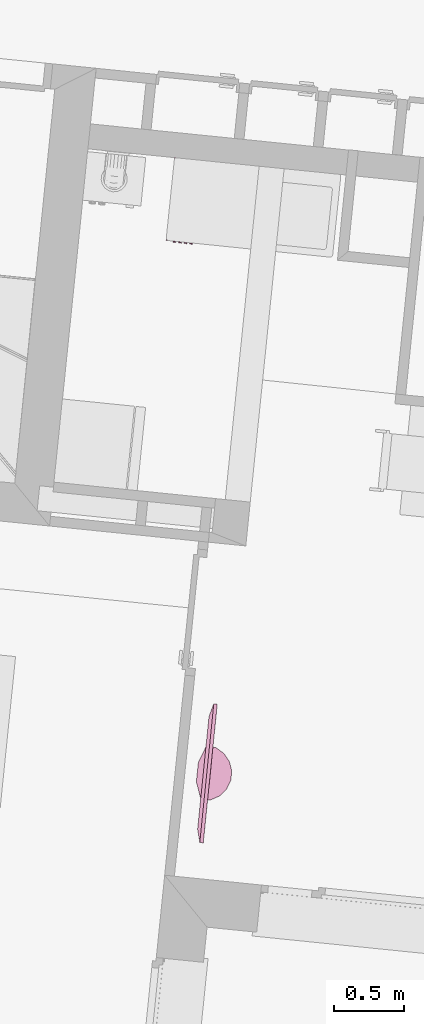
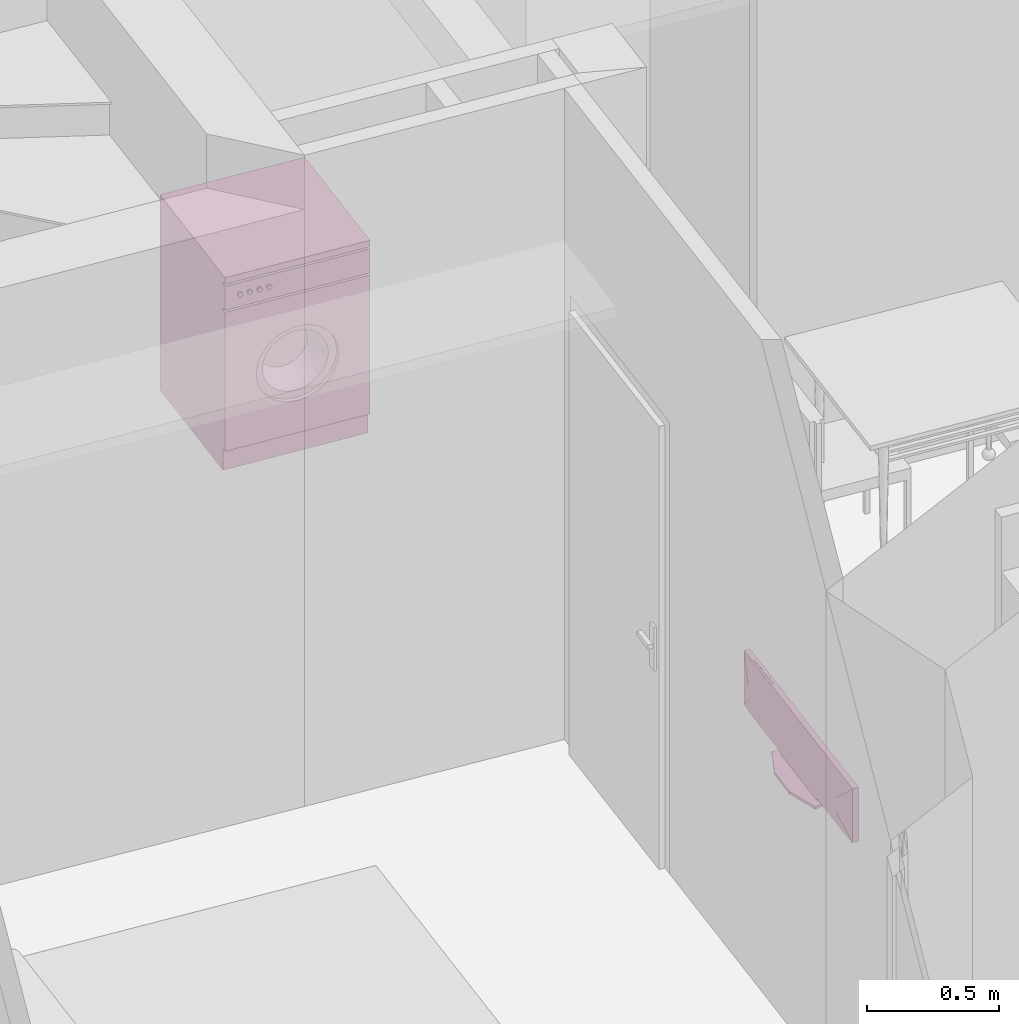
# One storey, part 129 of 164: 2 furnishings.
"""IFC2X3 building model written with IfcOpenShell, lengths in millimetres."""

from ifc_helpers import new_model, entity, si_unit, converted_unit, derived_unit, money_unit, direction, frame, origin_with_axes, place, context, subcontext, project, spatial, open_shell, faceted_brep, surface_model, source, transform, mapped, type_object, element, save


model = new_model("IFC2X3")

# Units and contexts
model_context = context("Model", 3, precision=0.01, world=origin_with_axes(), true_north=direction((0.0, 1.0)))
body_context = subcontext(model_context, "Body", "Model", "MODEL_VIEW")
ifc_project = project(units=[si_unit("LENGTHUNIT", "METRE", prefix="MILLI"), si_unit("AREAUNIT", "SQUARE_METRE"), si_unit("VOLUMEUNIT", "CUBIC_METRE"), converted_unit("PLANEANGLEUNIT", "DEGREE", entity("IfcPlaneAngleMeasure", 0.0174532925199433), si_unit("PLANEANGLEUNIT", "RADIAN"), dimensions=[0, 0, 0, 0, 0, 0, 0]), money_unit("USD"), converted_unit("TIMEUNIT", "Year", entity("IfcTimeMeasure", 31557600.0), si_unit("TIMEUNIT", "SECOND"), dimensions=[0, 0, 1, 0, 0, 0, 0]), si_unit("MASSUNIT", "GRAM", prefix="KILO"), si_unit("THERMODYNAMICTEMPERATUREUNIT", "DEGREE_CELSIUS"), si_unit("LUMINOUSINTENSITYUNIT", "LUMEN"), si_unit("ENERGYUNIT", "JOULE", prefix="MEGA"), derived_unit("THERMALCONDUCTANCEUNIT", [(si_unit("POWERUNIT", "WATT"), 1), (si_unit("LENGTHUNIT", "METRE"), -1), (si_unit("THERMODYNAMICTEMPERATUREUNIT", "KELVIN"), -1)]), derived_unit("SPECIFICHEATCAPACITYUNIT", [(si_unit("ENERGYUNIT", "JOULE"), 1), (si_unit("MASSUNIT", "GRAM", prefix="KILO"), -1), (si_unit("THERMODYNAMICTEMPERATUREUNIT", "KELVIN"), -1)]), derived_unit("MASSDENSITYUNIT", [(si_unit("MASSUNIT", "GRAM", prefix="KILO"), 1), (si_unit("VOLUMEUNIT", "CUBIC_METRE"), -1)])], contexts=[model_context])

# Site, building, storey
site_placement = place(None, origin_with_axes())
site = spatial("IfcSite", under=ifc_project, at=site_placement, Name="Site", CompositionType="ELEMENT")
building_placement = place(site_placement, origin_with_axes())
building = spatial("IfcBuilding", under=site, at=building_placement, Name="Bâtiment", CompositionType="ELEMENT")
storey_placement = place(building_placement, frame((0.0, 0.0, 5750.0), z_axis=(0.0, 0.0, 1.0), x_axis=(1.0, 0.0, 0.0)))
storey = spatial("IfcBuildingStorey", under=building, at=storey_placement, Name="Etage1", CompositionType="ELEMENT", Elevation=5750.0)

# Furnishings
furnishing_element_type_1 = type_object("IfcFurnishingElementType", Name="Machine à laver")
shared_shape_1 = source(origin_with_axes(), body_context, "Body", "SurfaceModel", [
    faceted_brep([(0.0, 20.0, 100.0), (600.0, 20.0, 100.0), (600.0, 0.0, 100.0), (0.0, 0.0, 100.0), (0.0, 20.00000000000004, 740.0), (600.0, 20.00000000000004, 740.0), (471.4285714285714, 20.00000000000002, 420.0000000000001), (465.5872845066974, 20.00000000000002, 464.3689791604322), (448.4614977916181, 20.00000000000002, 505.7142857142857), (421.2183053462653, 20.00000000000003, 541.2183053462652), (385.7142857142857, 20.00000000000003, 568.4614977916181), (344.3689791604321, 20.00000000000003, 585.5872845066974), (300.0000000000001, 20.00000000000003, 591.4285714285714), (255.6310208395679, 20.00000000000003, 585.5872845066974), (214.2857142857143, 20.00000000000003, 568.4614977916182), (178.7816946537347, 20.00000000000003, 541.2183053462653), (151.5385022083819, 20.00000000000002, 505.7142857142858), (134.4127154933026, 20.00000000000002, 464.3689791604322), (128.5714285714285, 20.00000000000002, 420.0000000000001), (134.4127154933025, 20.00000000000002, 375.6310208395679), (151.5385022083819, 20.00000000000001, 334.2857142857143), (178.7816946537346, 20.00000000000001, 298.7816946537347), (214.2857142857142, 20.00000000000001, 271.5385022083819), (255.6310208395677, 20.00000000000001, 254.4127154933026), (299.9999999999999, 20.00000000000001, 248.5714285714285), (344.368979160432, 20.00000000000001, 254.4127154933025), (385.7142857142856, 20.00000000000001, 271.5385022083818), (421.2183053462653, 20.00000000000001, 298.7816946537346), (448.4614977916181, 20.00000000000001, 334.2857142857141), (465.5872845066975, 20.00000000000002, 375.6310208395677), (600.0, 0.0, 740.0), (0.0, 0.0, 740.0), (471.4285714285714, 0.0, 420.0000000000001), (465.5872845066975, 0.0, 375.6310208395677), (448.4614977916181, 0.0, 334.2857142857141), (421.2183053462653, 0.0, 298.7816946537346), (385.7142857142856, 0.0, 271.5385022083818), (344.368979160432, 0.0, 254.4127154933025), (299.9999999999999, 0.0, 248.5714285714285), (255.6310208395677, 0.0, 254.4127154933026), (214.2857142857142, 0.0, 271.5385022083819), (178.7816946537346, 0.0, 298.7816946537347), (151.5385022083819, 0.0, 334.2857142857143), (134.4127154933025, 0.0, 375.6310208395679), (128.5714285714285, 0.0, 420.0000000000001), (134.4127154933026, 0.0, 464.3689791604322), (151.5385022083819, 0.0, 505.7142857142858), (178.7816946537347, 0.0, 541.2183053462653), (214.2857142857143, 0.0, 568.4614977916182), (255.6310208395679, 0.0, 585.5872845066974), (300.0000000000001, 0.0, 591.4285714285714), (344.3689791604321, 0.0, 585.5872845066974), (385.7142857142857, 0.0, 568.4614977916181), (421.2183053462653, 0.0, 541.2183053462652), (448.4614977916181, 0.0, 505.7142857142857), (465.5872845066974, 0.0, 464.3689791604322)], [[[0, 1, 2, 3]], [[0, 4, 5, 1], [6, 7, 8, 9, 10, 11, 12, 13, 14, 15, 16, 17, 18, 19, 20, 21, 22, 23, 24, 25, 26, 27, 28, 29]], [[1, 5, 30, 2]], [[3, 2, 30, 31], [32, 33, 34, 35, 36, 37, 38, 39, 40, 41, 42, 43, 44, 45, 46, 47, 48, 49, 50, 51, 52, 53, 54, 55]], [[4, 0, 3, 31]], [[5, 4, 31, 30]], [[7, 6, 32, 55]], [[8, 7, 55, 54]], [[9, 8, 54, 53]], [[10, 9, 53, 52]], [[11, 10, 52, 51]], [[12, 11, 51, 50]], [[13, 12, 50, 49]], [[14, 13, 49, 48]], [[15, 14, 48, 47]], [[16, 15, 47, 46]], [[17, 16, 46, 45]], [[18, 17, 45, 44]], [[19, 18, 44, 43]], [[20, 19, 43, 42]], [[21, 20, 42, 41]], [[22, 21, 41, 40]], [[23, 22, 40, 39]], [[24, 23, 39, 38]], [[25, 24, 38, 37]], [[26, 25, 37, 36]], [[27, 26, 36, 35]], [[28, 27, 35, 34]], [[29, 28, 34, 33]], [[6, 29, 33, 32]]]),
    faceted_brep([(471.4285714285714, 40.00000000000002, 420.0000000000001), (465.5872845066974, 40.00000000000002, 464.3689791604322), (465.5872845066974, 20.00000000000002, 464.3689791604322), (471.4285714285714, 20.00000000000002, 420.0000000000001), (465.5872845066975, 40.00000000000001, 375.6310208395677), (448.4614977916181, 40.00000000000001, 334.2857142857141), (421.2183053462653, 40.00000000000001, 298.7816946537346), (385.7142857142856, 40.00000000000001, 271.5385022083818), (344.368979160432, 40.00000000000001, 254.4127154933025), (299.9999999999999, 40.00000000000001, 248.5714285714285), (255.6310208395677, 40.00000000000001, 254.4127154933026), (214.2857142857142, 40.00000000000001, 271.5385022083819), (178.7816946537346, 40.00000000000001, 298.7816946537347), (151.5385022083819, 40.00000000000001, 334.2857142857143), (134.4127154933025, 40.00000000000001, 375.6310208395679), (128.5714285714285, 40.00000000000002, 420.0000000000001), (134.4127154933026, 40.00000000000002, 464.3689791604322), (151.5385022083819, 40.00000000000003, 505.7142857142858), (178.7816946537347, 40.00000000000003, 541.2183053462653), (214.2857142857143, 40.00000000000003, 568.4614977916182), (255.6310208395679, 40.00000000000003, 585.5872845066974), (300.0000000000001, 40.00000000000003, 591.4285714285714), (344.3689791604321, 40.00000000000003, 585.5872845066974), (385.7142857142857, 40.00000000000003, 568.4614977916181), (421.2183053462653, 40.00000000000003, 541.2183053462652), (448.4614977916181, 40.00000000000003, 505.7142857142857), (437.1428571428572, 40.00000000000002, 420.0000000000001), (432.469827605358, 40.00000000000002, 455.4951833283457), (418.7691982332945, 40.00000000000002, 488.5714285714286), (396.9746442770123, 40.00000000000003, 516.9746442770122), (368.5714285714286, 40.00000000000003, 538.7691982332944), (335.4951833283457, 40.00000000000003, 552.469827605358), (300.0000000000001, 40.00000000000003, 557.1428571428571), (264.5048166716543, 40.00000000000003, 552.469827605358), (231.4285714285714, 40.00000000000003, 538.7691982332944), (203.0253557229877, 40.00000000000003, 516.9746442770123), (181.2308017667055, 40.00000000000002, 488.5714285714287), (167.530172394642, 40.00000000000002, 455.4951833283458), (162.8571428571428, 40.00000000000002, 420.0000000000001), (167.530172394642, 40.00000000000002, 384.5048166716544), (181.2308017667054, 40.00000000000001, 351.4285714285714), (203.0253557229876, 40.00000000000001, 323.0253557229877), (231.4285714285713, 40.00000000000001, 301.2308017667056), (264.5048166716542, 40.00000000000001, 287.530172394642), (299.9999999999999, 40.00000000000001, 282.8571428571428), (335.4951833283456, 40.00000000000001, 287.530172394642), (368.5714285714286, 40.00000000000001, 301.2308017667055), (396.9746442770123, 40.00000000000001, 323.0253557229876), (418.7691982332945, 40.00000000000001, 351.4285714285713), (432.469827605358, 40.00000000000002, 384.5048166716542), (448.4614977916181, 20.00000000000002, 505.7142857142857), (421.2183053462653, 20.00000000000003, 541.2183053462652), (385.7142857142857, 20.00000000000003, 568.4614977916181), (344.3689791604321, 20.00000000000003, 585.5872845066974), (300.0000000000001, 20.00000000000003, 591.4285714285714), (255.6310208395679, 20.00000000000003, 585.5872845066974), (214.2857142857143, 20.00000000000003, 568.4614977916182), (178.7816946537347, 20.00000000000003, 541.2183053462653), (151.5385022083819, 20.00000000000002, 505.7142857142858), (134.4127154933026, 20.00000000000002, 464.3689791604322), (128.5714285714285, 20.00000000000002, 420.0000000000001), (134.4127154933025, 20.00000000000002, 375.6310208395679), (151.5385022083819, 20.00000000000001, 334.2857142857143), (178.7816946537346, 20.00000000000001, 298.7816946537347), (214.2857142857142, 20.00000000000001, 271.5385022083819), (255.6310208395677, 20.00000000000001, 254.4127154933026), (299.9999999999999, 20.00000000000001, 248.5714285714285), (344.368979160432, 20.00000000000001, 254.4127154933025), (385.7142857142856, 20.00000000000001, 271.5385022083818), (421.2183053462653, 20.00000000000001, 298.7816946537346), (448.4614977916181, 20.00000000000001, 334.2857142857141), (465.5872845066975, 20.00000000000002, 375.6310208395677), (437.1428571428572, 20.00000000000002, 420.0000000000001), (432.469827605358, 20.00000000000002, 384.5048166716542), (418.7691982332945, 20.00000000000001, 351.4285714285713), (396.9746442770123, 20.00000000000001, 323.0253557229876), (368.5714285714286, 20.00000000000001, 301.2308017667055), (335.4951833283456, 20.00000000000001, 287.530172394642), (299.9999999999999, 20.00000000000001, 282.8571428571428), (264.5048166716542, 20.00000000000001, 287.530172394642), (231.4285714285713, 20.00000000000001, 301.2308017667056), (203.0253557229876, 20.00000000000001, 323.0253557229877), (181.2308017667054, 20.00000000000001, 351.4285714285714), (167.530172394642, 20.00000000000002, 384.5048166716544), (162.8571428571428, 20.00000000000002, 420.0000000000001), (167.530172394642, 20.00000000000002, 455.4951833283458), (181.2308017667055, 20.00000000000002, 488.5714285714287), (203.0253557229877, 20.00000000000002, 516.9746442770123), (231.4285714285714, 20.00000000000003, 538.7691982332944), (264.5048166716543, 20.00000000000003, 552.469827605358), (300.0000000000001, 20.00000000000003, 557.1428571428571), (335.4951833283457, 20.00000000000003, 552.469827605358), (368.5714285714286, 20.00000000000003, 538.7691982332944), (396.9746442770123, 20.00000000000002, 516.9746442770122), (418.7691982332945, 20.00000000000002, 488.5714285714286), (432.469827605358, 20.00000000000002, 455.4951833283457)], [[[0, 1, 2, 3]], [[0, 4, 5, 6, 7, 8, 9, 10, 11, 12, 13, 14, 15, 16, 17, 18, 19, 20, 21, 22, 23, 24, 25, 1], [26, 27, 28, 29, 30, 31, 32, 33, 34, 35, 36, 37, 38, 39, 40, 41, 42, 43, 44, 45, 46, 47, 48, 49]], [[1, 25, 50, 2]], [[3, 2, 50, 51, 52, 53, 54, 55, 56, 57, 58, 59, 60, 61, 62, 63, 64, 65, 66, 67, 68, 69, 70, 71], [72, 73, 74, 75, 76, 77, 78, 79, 80, 81, 82, 83, 84, 85, 86, 87, 88, 89, 90, 91, 92, 93, 94, 95]], [[4, 0, 3, 71]], [[5, 4, 71, 70]], [[6, 5, 70, 69]], [[7, 6, 69, 68]], [[8, 7, 68, 67]], [[9, 8, 67, 66]], [[10, 9, 66, 65]], [[11, 10, 65, 64]], [[12, 11, 64, 63]], [[13, 12, 63, 62]], [[14, 13, 62, 61]], [[15, 14, 61, 60]], [[16, 15, 60, 59]], [[17, 16, 59, 58]], [[18, 17, 58, 57]], [[19, 18, 57, 56]], [[20, 19, 56, 55]], [[21, 20, 55, 54]], [[22, 21, 54, 53]], [[23, 22, 53, 52]], [[24, 23, 52, 51]], [[25, 24, 51, 50]], [[27, 26, 72, 95]], [[28, 27, 95, 94]], [[29, 28, 94, 93]], [[30, 29, 93, 92]], [[31, 30, 92, 91]], [[32, 31, 91, 90]], [[33, 32, 90, 89]], [[34, 33, 89, 88]], [[35, 34, 88, 87]], [[36, 35, 87, 86]], [[37, 36, 86, 85]], [[38, 37, 85, 84]], [[39, 38, 84, 83]], [[40, 39, 83, 82]], [[41, 40, 82, 81]], [[42, 41, 81, 80]], [[43, 42, 80, 79]], [[44, 43, 79, 78]], [[45, 44, 78, 77]], [[46, 45, 77, 76]], [[47, 46, 76, 75]], [[48, 47, 75, 74]], [[49, 48, 74, 73]], [[26, 49, 73, 72]]]),
    surface_model("IfcShellBasedSurfaceModel", [(264.5048166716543, 39.99999999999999, 552.469827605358), (300.0, 39.99999999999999, 557.1428571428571), (300.0, 140.0, 522.8571428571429), (273.3786125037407, 140.0, 519.3523707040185), (335.4951833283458, 39.99999999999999, 552.469827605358), (326.6213874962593, 140.0, 519.3523707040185), (351.4285714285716, 140.0, 509.0768986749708), (372.7309832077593, 140.0, 492.7309832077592), (389.0768986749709, 140.0, 471.4285714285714), (399.3523707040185, 140.0, 446.6213874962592), (402.8571428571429, 140.0, 420.0), (399.3523707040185, 140.0, 393.3786125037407), (389.0768986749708, 140.0, 368.5714285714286), (372.7309832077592, 140.0, 347.2690167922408), (351.4285714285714, 140.0, 330.9231013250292), (326.6213874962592, 140.0, 320.6476292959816), (299.9999999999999, 140.0, 317.1428571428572), (273.3786125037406, 140.0, 320.6476292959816), (248.5714285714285, 140.0, 330.9231013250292), (227.2690167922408, 140.0, 347.2690167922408), (210.9231013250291, 140.0, 368.5714285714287), (200.6476292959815, 140.0, 393.3786125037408), (197.1428571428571, 140.0, 420.0000000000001), (200.6476292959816, 140.0, 446.6213874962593), (210.9231013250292, 140.0, 471.4285714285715), (227.2690167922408, 140.0, 492.7309832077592), (248.5714285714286, 140.0, 509.0768986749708), (231.4285714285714, 39.99999999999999, 538.7691982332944), (368.5714285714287, 39.99999999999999, 538.7691982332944), (396.9746442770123, 39.99999999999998, 516.9746442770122), (418.7691982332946, 39.99999999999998, 488.5714285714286), (432.469827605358, 39.99999999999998, 455.4951833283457), (437.1428571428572, 39.99999999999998, 419.9999999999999), (432.469827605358, 39.99999999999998, 384.5048166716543), (418.7691982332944, 39.99999999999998, 351.4285714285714), (396.9746442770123, 39.99999999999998, 323.0253557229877), (368.5714285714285, 39.99999999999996, 301.2308017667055), (335.4951833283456, 39.99999999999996, 287.5301723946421), (299.9999999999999, 39.99999999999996, 282.8571428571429), (264.5048166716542, 39.99999999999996, 287.5301723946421), (231.4285714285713, 39.99999999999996, 301.2308017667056), (203.0253557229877, 39.99999999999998, 323.0253557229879), (181.2308017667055, 39.99999999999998, 351.4285714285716), (167.530172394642, 39.99999999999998, 384.5048166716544), (162.8571428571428, 39.99999999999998, 420.0000000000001), (167.5301723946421, 39.99999999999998, 455.4951833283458), (181.2308017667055, 39.99999999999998, 488.5714285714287), (203.0253557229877, 39.99999999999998, 516.9746442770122)], [open_shell([[[0, 1, 2, 3]], [[1, 4, 5, 2]], [[2, 5, 6, 7, 8, 9, 10, 11, 12, 13, 14, 15, 16, 17, 18, 19, 20, 21, 22, 23, 24, 25, 26, 3]], [[27, 0, 3, 26]], [[4, 28, 6, 5]], [[28, 29, 7, 6]], [[29, 30, 8, 7]], [[30, 31, 9, 8]], [[31, 32, 10, 9]], [[32, 33, 11, 10]], [[33, 34, 12, 11]], [[34, 35, 13, 12]], [[35, 36, 14, 13]], [[36, 37, 15, 14]], [[37, 38, 16, 15]], [[38, 39, 17, 16]], [[39, 40, 18, 17]], [[40, 41, 19, 18]], [[41, 42, 20, 19]], [[42, 43, 21, 20]], [[43, 44, 22, 21]], [[44, 45, 23, 22]], [[45, 46, 24, 23]], [[46, 47, 25, 24]], [[47, 27, 26, 25]]])]),
    surface_model("IfcShellBasedSurfaceModel", [(0.0, 20.0, 100.0), (0.0, 20.00000000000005, 870.0), (0.0, 600.0, 870.0), (0.0, 600.0, 99.99999999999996)], [open_shell([[[0, 1, 2, 3]]])]),
    surface_model("IfcShellBasedSurfaceModel", [(600.0, 19.99999999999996, 100.0), (600.0, 20.00000000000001, 870.0), (600.0, 599.9999999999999, 870.0), (600.0, 599.9999999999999, 99.99999999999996)], [open_shell([[[0, 1, 2, 3]]])]),
    surface_model("IfcShellBasedSurfaceModel", [(0.0, 600.0, 100.0), (0.0, 600.0, 870.0), (600.0, 600.0, 870.0), (600.0, 600.0, 100.0)], [open_shell([[[0, 1, 2, 3]]])]),
    faceted_brep([(0.0, 20.0, 0.0), (600.0, 20.0, 0.0), (600.0, 20.0, 100.0), (0.0, 20.0, 100.0), (0.0, 600.0, 0.0), (600.0, 600.0, 0.0), (600.0, 600.0, 100.0), (0.0, 600.0, 100.0)], [[[0, 1, 2, 3]], [[0, 4, 5, 1]], [[1, 5, 6, 2]], [[3, 2, 6, 7]], [[4, 0, 3, 7]], [[5, 4, 7, 6]]]),
    faceted_brep([(0.0, 20.0, 750.0), (600.0, 20.0, 750.0), (600.0, 0.0, 750.0), (0.0, 0.0, 750.0), (0.0, 20.00000000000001, 860.0), (600.0, 20.00000000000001, 860.0), (600.0, 0.0, 860.0), (0.0, 0.0, 860.0)], [[[0, 1, 2, 3]], [[0, 4, 5, 1]], [[1, 5, 6, 2]], [[3, 2, 6, 7]], [[4, 0, 3, 7]], [[5, 4, 7, 6]]]),
    surface_model("IfcShellBasedSurfaceModel", [(0.0, 20.0, 740.0), (0.0, 20.00000000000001, 870.0), (600.0, 20.00000000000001, 870.0), (600.0, 20.0, 740.0)], [open_shell([[[0, 1, 2, 3]]])]),
    faceted_brep([(0.0, 0.0, 870.0), (600.0, 0.0, 870.0), (600.0, 0.0, 900.0), (0.0, 0.0, 900.0), (0.0, 600.0, 870.0), (600.0, 600.0, 870.0), (600.0, 600.0, 900.0), (0.0, 600.0, 900.0)], [[[0, 1, 2, 3]], [[0, 4, 5, 1]], [[1, 5, 6, 2]], [[3, 2, 6, 7]], [[4, 0, 3, 7]], [[5, 4, 7, 6]]]),
    faceted_brep([(68.66025403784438, 0.0, 804.9999999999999), (64.99999999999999, 0.0, 801.3397459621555), (59.99999999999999, 0.0, 799.9999999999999), (54.99999999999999, 0.0, 801.3397459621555), (51.33974596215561, 0.0, 804.9999999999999), (49.99999999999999, 0.0, 809.9999999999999), (51.33974596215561, 0.0, 815.0), (55.0, 0.0, 818.6602540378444), (60.0, 0.0, 820.0), (65.0, 0.0, 818.6602540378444), (68.66025403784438, 0.0, 815.0), (69.99999999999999, 0.0, 809.9999999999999), (68.66025403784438, -10.0, 804.9999999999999), (64.99999999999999, -10.0, 801.3397459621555), (59.99999999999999, -10.0, 799.9999999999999), (54.99999999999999, -10.0, 801.3397459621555), (51.33974596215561, -10.0, 804.9999999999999), (49.99999999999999, -10.0, 809.9999999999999), (51.33974596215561, -10.0, 815.0), (55.0, -10.0, 818.6602540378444), (60.0, -10.0, 820.0), (65.0, -10.0, 818.6602540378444), (68.66025403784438, -10.0, 815.0), (69.99999999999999, -10.0, 809.9999999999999)], [[[0, 1, 2, 3, 4, 5, 6, 7, 8, 9, 10, 11]], [[1, 0, 12, 13]], [[2, 1, 13, 14]], [[3, 2, 14, 15]], [[4, 3, 15, 16]], [[5, 4, 16, 17]], [[6, 5, 17, 18]], [[7, 6, 18, 19]], [[8, 7, 19, 20]], [[9, 8, 20, 21]], [[10, 9, 21, 22]], [[11, 10, 22, 23]], [[0, 11, 23, 12]], [[12, 23, 22, 21, 20, 19, 18, 17, 16, 15, 14, 13]]]),
    faceted_brep([(108.6602540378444, 0.0, 804.9999999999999), (105.0, 0.0, 801.3397459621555), (99.99999999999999, 0.0, 799.9999999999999), (95.0, 0.0, 801.3397459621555), (91.33974596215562, 0.0, 804.9999999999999), (90.00000000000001, 0.0, 809.9999999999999), (91.33974596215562, 0.0, 815.0), (95.0, 0.0, 818.6602540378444), (100.0, 0.0, 820.0), (105.0, 0.0, 818.6602540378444), (108.6602540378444, 0.0, 815.0), (110.0, 0.0, 809.9999999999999), (108.6602540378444, -10.0, 804.9999999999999), (105.0, -10.0, 801.3397459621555), (99.99999999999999, -10.0, 799.9999999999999), (95.0, -10.0, 801.3397459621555), (91.33974596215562, -10.0, 804.9999999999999), (90.00000000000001, -10.0, 809.9999999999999), (91.33974596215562, -10.0, 815.0), (95.0, -10.0, 818.6602540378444), (100.0, -10.0, 820.0), (105.0, -10.0, 818.6602540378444), (108.6602540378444, -10.0, 815.0), (110.0, -10.0, 809.9999999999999)], [[[0, 1, 2, 3, 4, 5, 6, 7, 8, 9, 10, 11]], [[1, 0, 12, 13]], [[2, 1, 13, 14]], [[3, 2, 14, 15]], [[4, 3, 15, 16]], [[5, 4, 16, 17]], [[6, 5, 17, 18]], [[7, 6, 18, 19]], [[8, 7, 19, 20]], [[9, 8, 20, 21]], [[10, 9, 21, 22]], [[11, 10, 22, 23]], [[0, 11, 23, 12]], [[12, 23, 22, 21, 20, 19, 18, 17, 16, 15, 14, 13]]]),
    faceted_brep([(148.6602540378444, 0.0, 804.9999999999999), (145.0, 0.0, 801.3397459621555), (140.0, 0.0, 799.9999999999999), (135.0, 0.0, 801.3397459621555), (131.3397459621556, 0.0, 804.9999999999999), (130.0, 0.0, 809.9999999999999), (131.3397459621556, 0.0, 815.0), (135.0, 0.0, 818.6602540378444), (140.0, 0.0, 820.0), (145.0, 0.0, 818.6602540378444), (148.6602540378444, 0.0, 815.0), (150.0, 0.0, 809.9999999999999), (148.6602540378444, -10.0, 804.9999999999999), (145.0, -10.0, 801.3397459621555), (140.0, -10.0, 799.9999999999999), (135.0, -10.0, 801.3397459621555), (131.3397459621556, -10.0, 804.9999999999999), (130.0, -10.0, 809.9999999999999), (131.3397459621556, -10.0, 815.0), (135.0, -10.0, 818.6602540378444), (140.0, -10.0, 820.0), (145.0, -10.0, 818.6602540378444), (148.6602540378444, -10.0, 815.0), (150.0, -10.0, 809.9999999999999)], [[[0, 1, 2, 3, 4, 5, 6, 7, 8, 9, 10, 11]], [[1, 0, 12, 13]], [[2, 1, 13, 14]], [[3, 2, 14, 15]], [[4, 3, 15, 16]], [[5, 4, 16, 17]], [[6, 5, 17, 18]], [[7, 6, 18, 19]], [[8, 7, 19, 20]], [[9, 8, 20, 21]], [[10, 9, 21, 22]], [[11, 10, 22, 23]], [[0, 11, 23, 12]], [[12, 23, 22, 21, 20, 19, 18, 17, 16, 15, 14, 13]]]),
    faceted_brep([(188.6602540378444, 0.0, 804.9999999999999), (185.0, 0.0, 801.3397459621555), (180.0, 0.0, 799.9999999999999), (175.0, 0.0, 801.3397459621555), (171.3397459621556, 0.0, 804.9999999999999), (170.0, 0.0, 809.9999999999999), (171.3397459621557, 0.0, 815.0), (175.0, 0.0, 818.6602540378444), (180.0, 0.0, 820.0), (185.0, 0.0, 818.6602540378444), (188.6602540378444, 0.0, 815.0), (190.0, 0.0, 809.9999999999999), (188.6602540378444, -10.0, 804.9999999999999), (185.0, -10.0, 801.3397459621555), (180.0, -10.0, 799.9999999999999), (175.0, -10.0, 801.3397459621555), (171.3397459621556, -10.0, 804.9999999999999), (170.0, -10.0, 809.9999999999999), (171.3397459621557, -10.0, 815.0), (175.0, -10.0, 818.6602540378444), (180.0, -10.0, 820.0), (185.0, -10.0, 818.6602540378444), (188.6602540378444, -10.0, 815.0), (190.0, -10.0, 809.9999999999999)], [[[0, 1, 2, 3, 4, 5, 6, 7, 8, 9, 10, 11]], [[1, 0, 12, 13]], [[2, 1, 13, 14]], [[3, 2, 14, 15]], [[4, 3, 15, 16]], [[5, 4, 16, 17]], [[6, 5, 17, 18]], [[7, 6, 18, 19]], [[8, 7, 19, 20]], [[9, 8, 20, 21]], [[10, 9, 21, 22]], [[11, 10, 22, 23]], [[0, 11, 23, 12]], [[12, 23, 22, 21, 20, 19, 18, 17, 16, 15, 14, 13]]]),
])
furnishing_1_placement = place(storey_placement, frame((2229527.176909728, -615465.3233737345, 0.0), z_axis=(0.0, 0.0, 1.0), x_axis=(0.9949567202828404, -0.1003051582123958, 0.0)))
element("IfcFurnishingElement", 1, at=furnishing_1_placement, inside=storey, type_object=furnishing_element_type_1, Name="Obj.-019", context=body_context, shape_type="MappedRepresentation", body=[
    mapped(shared_shape_1, transform((0.0, 0.0, 0.0))),
])
furnishing_element_type_2 = type_object("IfcFurnishingElementType", Name="Ecran TV plasma")
shared_shape_2 = source(origin_with_axes(), body_context, "Body", "Brep", [
    faceted_brep([(300.0, 45.45454545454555, 0.0), (311.9952377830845, -22.76722074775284, 0.0), (311.9952377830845, -22.76722074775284, 12.72727272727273), (300.0, 45.45454545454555, 12.72727272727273), (300.362869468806, 45.66379498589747, 0.0), (430.8157560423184, 93.01588086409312, 0.0), (569.5967719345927, 92.94321528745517, 0.0), (700.0000000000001, 45.45454545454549, 0.0), (699.9923846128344, 43.70923835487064, 0.0), (687.402263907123, -24.40525330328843, 0.0), (652.3327960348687, -84.13989598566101, 0.0), (598.9906470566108, -128.3293772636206, 0.0), (533.7743345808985, -151.6730637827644, 0.0), (464.5067103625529, -151.3708248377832, 0.0), (399.4965906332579, -127.4589147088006, 0.0), (346.5420938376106, -82.80562387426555, 0.0), (346.5420938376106, -82.80562387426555, 12.72727272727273), (399.4965906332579, -127.4589147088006, 12.72727272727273), (464.5067103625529, -151.3708248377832, 12.72727272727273), (533.7743345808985, -151.6730637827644, 12.72727272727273), (598.9906470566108, -128.3293772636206, 12.72727272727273), (652.3327960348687, -84.13989598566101, 12.72727272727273), (687.402263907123, -24.40525330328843, 12.72727272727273), (699.9923846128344, 43.70923835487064, 12.72727272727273), (700.0000000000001, 45.45454545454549, 12.72727272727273), (569.5967719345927, 92.94321528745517, 12.72727272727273), (430.8157560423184, 93.01588086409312, 12.72727272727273), (300.362869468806, 45.66379498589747, 12.72727272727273)], [[[0, 1, 2, 3]], [[0, 4, 5, 6, 7, 8, 9, 10, 11, 12, 13, 14, 15, 1]], [[1, 15, 16, 2]], [[3, 2, 16, 17, 18, 19, 20, 21, 22, 23, 24, 25, 26, 27]], [[4, 0, 3, 27]], [[5, 4, 27, 26]], [[6, 5, 26, 25]], [[7, 6, 25, 24]], [[8, 7, 24, 23]], [[9, 8, 23, 22]], [[10, 9, 22, 21]], [[11, 10, 21, 20]], [[12, 11, 20, 19]], [[13, 12, 19, 18]], [[14, 13, 18, 17]], [[15, 14, 17, 16]]]),
    faceted_brep([(666.6666666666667, 2.500000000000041, 12.72727272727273), (666.6666666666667, 22.50000000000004, 12.72727272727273), (666.6666666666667, 22.50000000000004, 25.45454545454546), (666.6666666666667, 2.500000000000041, 25.45454545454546), (333.3333333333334, 2.500000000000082, 12.72727272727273), (333.3333333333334, 22.50000000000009, 12.72727272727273), (333.3333333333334, 22.50000000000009, 25.45454545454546), (333.3333333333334, 2.500000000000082, 25.45454545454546)], [[[0, 1, 2, 3]], [[0, 4, 5, 1]], [[1, 5, 6, 2]], [[3, 2, 6, 7]], [[4, 0, 3, 7]], [[5, 4, 7, 6]]]),
    faceted_brep([(62.5, -0.2539999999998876, 65.45454545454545), (62.5, -0.2539999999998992, 254.5454545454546), (62.5, 0.0, 254.5454545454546), (62.5, 0.0, 65.45454545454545), (937.5, -0.2539999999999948, 65.45454545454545), (937.5, -0.2540000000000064, 254.5454545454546), (937.5, 0.0, 254.5454545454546), (937.5, 0.0, 65.45454545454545)], [[[0, 1, 2, 3]], [[0, 4, 5, 1]], [[1, 5, 6, 2]], [[3, 2, 6, 7]], [[4, 0, 3, 7]], [[5, 4, 7, 6]]]),
    faceted_brep([(937.5, 0.0, 25.45454545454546), (1000.0, 0.0, 31.81818181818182), (1000.0, 0.0, 280.0), (0.0, 0.0, 280.0), (0.0, 0.0, 31.81818181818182), (62.5, 0.0, 25.45454545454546), (937.5000003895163, 25.00000000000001, 25.4545450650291), (1000.000000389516, 25.0, 31.81818187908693), (1000.000000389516, 24.99999999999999, 279.9999999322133), (3.895163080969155e-07, 25.00000000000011, 279.9999999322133), (3.895163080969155e-07, 25.00000000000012, 31.81818187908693), (62.50000038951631, 25.00000000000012, 25.4545450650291), (934.156616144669, 42.64268163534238, 91.29792930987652), (906.6987288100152, 50.00000037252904, 118.7558166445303), (906.6987288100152, 50.00000037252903, 186.6987283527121), (93.30127196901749, 50.00000037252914, 186.6987283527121), (93.30127196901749, 50.00000037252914, 118.7558166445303), (65.84338463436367, 42.64268163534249, 91.29792930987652)], [[[0, 1, 2, 3, 4, 5]], [[1, 0, 6, 7]], [[2, 1, 7, 8]], [[3, 2, 8, 9]], [[4, 3, 9, 10]], [[5, 4, 10, 11]], [[0, 5, 11, 6]], [[7, 6, 12]], [[8, 7, 12, 13, 14]], [[9, 8, 14, 15]], [[10, 9, 15, 16, 17]], [[11, 10, 17]], [[6, 11, 17, 16, 13, 12]], [[14, 13, 16, 15]]]),
    faceted_brep([(500.0, -0.7937499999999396, 39.45454545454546), (490.0, -0.7937499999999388, 46.45454545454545), (490.0, 0.0, 46.45454545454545), (500.0, 0.0, 39.45454545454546), (510.0, -0.7937499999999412, 46.45454545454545), (600.0, -0.7937499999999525, 52.18181818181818), (400.0, -0.7937499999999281, 52.18181818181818), (400.0, 0.0, 52.18181818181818), (600.0, 0.0, 52.18181818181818), (510.0, 0.0, 46.45454545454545)], [[[0, 1, 2, 3]], [[0, 4, 5, 6, 1]], [[1, 6, 7, 2]], [[3, 2, 7, 8, 9]], [[4, 0, 3, 9]], [[5, 4, 9, 8]], [[6, 5, 8, 7]]]),
    faceted_brep([(866.6666666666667, 10.0, 280.0), (933.3333333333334, 9.999999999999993, 280.0), (933.3333333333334, 9.999999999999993, 281.5875), (866.6666666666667, 10.0, 281.5875), (866.6666666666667, 16.25, 280.0), (933.3333333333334, 16.24999999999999, 280.0), (933.3333333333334, 16.24999999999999, 281.5875), (866.6666666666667, 16.25, 281.5875)], [[[0, 1, 2, 3]], [[1, 0, 4, 5]], [[2, 1, 5, 6]], [[3, 2, 6, 7]], [[0, 3, 7, 4]], [[5, 4, 7, 6]]]),
    faceted_brep([(795.2380952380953, 10.00000000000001, 280.0), (861.9047619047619, 10.0, 280.0), (861.9047619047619, 10.0, 281.5875), (795.2380952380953, 10.00000000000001, 281.5875), (795.2380952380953, 16.25000000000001, 280.0), (861.9047619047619, 16.25, 280.0), (861.9047619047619, 16.25, 281.5875), (795.2380952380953, 16.25000000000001, 281.5875)], [[[0, 1, 2, 3]], [[1, 0, 4, 5]], [[2, 1, 5, 6]], [[3, 2, 6, 7]], [[0, 3, 7, 4]], [[5, 4, 7, 6]]]),
    faceted_brep([(757.1428571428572, 10.00000000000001, 280.0), (790.4761904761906, 10.00000000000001, 280.0), (790.4761904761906, 10.00000000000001, 281.5875), (757.1428571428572, 10.00000000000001, 281.5875), (757.1428571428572, 16.25000000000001, 280.0), (790.4761904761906, 16.25000000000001, 280.0), (790.4761904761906, 16.25000000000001, 281.5875), (757.1428571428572, 16.25000000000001, 281.5875)], [[[0, 1, 2, 3]], [[1, 0, 4, 5]], [[2, 1, 5, 6]], [[3, 2, 6, 7]], [[0, 3, 7, 4]], [[5, 4, 7, 6]]]),
])
furnishing_2_placement = place(storey_placement, frame((2229792.976593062, -619787.7777147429, 800.0000000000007), z_axis=(0.0, 0.0, 1.0), x_axis=(0.1004372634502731, 0.9949433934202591, 0.0)))
element("IfcFurnishingElement", 2, at=furnishing_2_placement, inside=storey, type_object=furnishing_element_type_2, Name="Obj.-034", context=body_context, shape_type="MappedRepresentation", body=[
    mapped(shared_shape_2, transform((0.0, 0.0, 0.0))),
])

save(model, "model.ifc")
